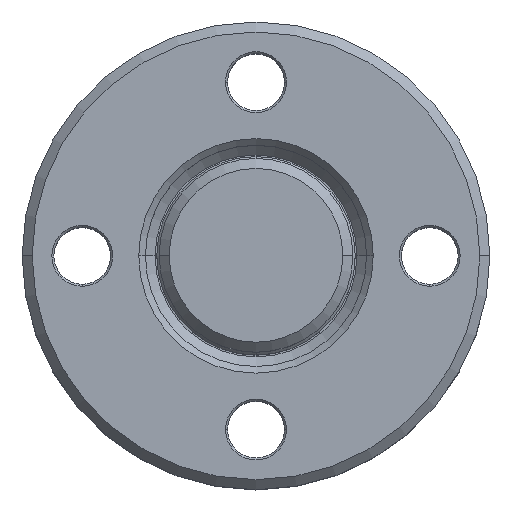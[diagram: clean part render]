
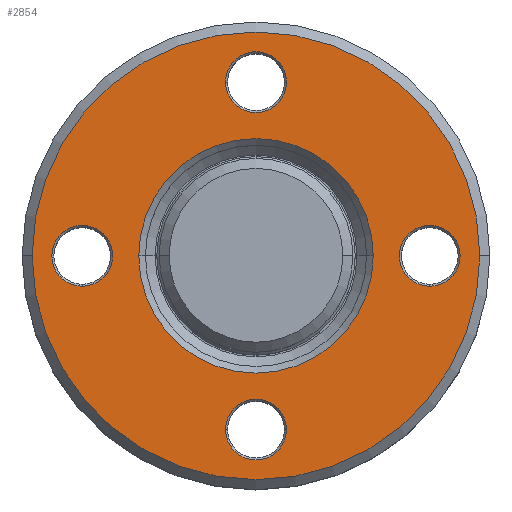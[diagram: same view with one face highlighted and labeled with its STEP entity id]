
A CAD part, top view. The second image highlights one B-rep face of the part: STEP entity #2854.
In plain terms, the highlighted planar face has unit normal (0, 0, 1).
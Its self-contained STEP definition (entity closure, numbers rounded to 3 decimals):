
#20 = EDGE_CURVE ( 'NONE', #3421, #2094, #2848, .T. ) ;
#54 = AXIS2_PLACEMENT_3D ( 'NONE', #1150, #1967, #2876 ) ;
#108 = CARTESIAN_POINT ( 'NONE',  ( 0., 0., 13. ) ) ;
#277 = VERTEX_POINT ( 'NONE', #2942 ) ;
#301 = EDGE_CURVE ( 'NONE', #3459, #3583, #2769, .T. ) ;
#324 = CARTESIAN_POINT ( 'NONE',  ( -26., -4.55, 13. ) ) ;
#345 = CARTESIAN_POINT ( 'NONE',  ( 17.55, 0., 13. ) ) ;
#427 = EDGE_CURVE ( 'NONE', #277, #1817, #2642, .T. ) ;
#486 = AXIS2_PLACEMENT_3D ( 'NONE', #108, #1540, #950 ) ;
#517 = CARTESIAN_POINT ( 'NONE',  ( 26., 4.55, 13. ) ) ;
#564 = CARTESIAN_POINT ( 'NONE',  ( -33.5, 0., 13. ) ) ;
#645 = CARTESIAN_POINT ( 'NONE',  ( 33.5, 0., 13. ) ) ;
#680 = CARTESIAN_POINT ( 'NONE',  ( 0., 26., 13. ) ) ;
#681 = EDGE_CURVE ( 'NONE', #3409, #3412, #2509, .T. ) ;
#712 = DIRECTION ( 'NONE',  ( 0., 0., -1. ) ) ;
#729 = CIRCLE ( 'NONE', #3345, 4.55 ) ;
#842 = DIRECTION ( 'NONE',  ( 0., 0., -1. ) ) ;
#848 = DIRECTION ( 'NONE',  ( 1., 0., 0. ) ) ;
#854 = DIRECTION ( 'NONE',  ( 0., 0., -1. ) ) ;
#861 = CARTESIAN_POINT ( 'NONE',  ( 0., -26., 13. ) ) ;
#888 = DIRECTION ( 'NONE',  ( 1., 0., 0. ) ) ;
#945 = FACE_BOUND ( 'NONE', #3573, .T. ) ;
#946 = EDGE_CURVE ( 'NONE', #1345, #2292, #2341, .T. ) ;
#948 = FACE_BOUND ( 'NONE', #3185, .T. ) ;
#950 = DIRECTION ( 'NONE',  ( -1., 0., 0. ) ) ;
#951 = FACE_BOUND ( 'NONE', #3552, .T. ) ;
#954 = FACE_BOUND ( 'NONE', #3155, .T. ) ;
#968 = FACE_BOUND ( 'NONE', #3441, .T. ) ;
#979 = FACE_OUTER_BOUND ( 'NONE', #3163, .T. ) ;
#1012 = CARTESIAN_POINT ( 'NONE',  ( -4.55, -26., 13. ) ) ;
#1049 = DIRECTION ( 'NONE',  ( 0., 0., -1. ) ) ;
#1113 = CARTESIAN_POINT ( 'NONE',  ( 4.55, 26., 13. ) ) ;
#1129 = EDGE_CURVE ( 'NONE', #2292, #1345, #2246, .T. ) ;
#1150 = CARTESIAN_POINT ( 'NONE',  ( 0., 0., 13. ) ) ;
#1247 = DIRECTION ( 'NONE',  ( -1., 0., 0. ) ) ;
#1264 = EDGE_CURVE ( 'NONE', #3412, #3409, #2155, .T. ) ;
#1278 = DIRECTION ( 'NONE',  ( 0., 0., -1. ) ) ;
#1345 = VERTEX_POINT ( 'NONE', #345 ) ;
#1351 = CIRCLE ( 'NONE', #486, 33.5 ) ;
#1357 = AXIS2_PLACEMENT_3D ( 'NONE', #2807, #3065, #3321 ) ;
#1377 = AXIS2_PLACEMENT_3D ( 'NONE', #1396, #1049, #2764 ) ;
#1378 = EDGE_CURVE ( 'NONE', #2094, #3421, #2093, .T. ) ;
#1396 = CARTESIAN_POINT ( 'NONE',  ( 0., -26., 13. ) ) ;
#1420 = CARTESIAN_POINT ( 'NONE',  ( -26., 4.55, 13. ) ) ;
#1440 = AXIS2_PLACEMENT_3D ( 'NONE', #1873, #2614, #3307 ) ;
#1455 = EDGE_CURVE ( 'NONE', #1817, #277, #2044, .T. ) ;
#1496 = AXIS2_PLACEMENT_3D ( 'NONE', #680, #712, #888 ) ;
#1516 = EDGE_CURVE ( 'NONE', #2151, #2091, #2058, .T. ) ;
#1540 = DIRECTION ( 'NONE',  ( 0., 0., -1. ) ) ;
#1634 = AXIS2_PLACEMENT_3D ( 'NONE', #2407, #2422, #2444 ) ;
#1676 = CARTESIAN_POINT ( 'NONE',  ( 0., 0., 13. ) ) ;
#1687 = AXIS2_PLACEMENT_3D ( 'NONE', #1676, #1689, #1938 ) ;
#1689 = DIRECTION ( 'NONE',  ( 0., 0., -1. ) ) ;
#1695 = CARTESIAN_POINT ( 'NONE',  ( -4.55, 26., 13. ) ) ;
#1789 = CARTESIAN_POINT ( 'NONE',  ( 26., 0., 13. ) ) ;
#1808 = PLANE ( 'NONE',  #54 ) ;
#1817 = VERTEX_POINT ( 'NONE', #1012 ) ;
#1837 = DIRECTION ( 'NONE',  ( 0., 0., -1. ) ) ;
#1849 = DIRECTION ( 'NONE',  ( 0., -1., 0. ) ) ;
#1873 = CARTESIAN_POINT ( 'NONE',  ( 26., 0., 13. ) ) ;
#1882 = AXIS2_PLACEMENT_3D ( 'NONE', #2460, #2573, #2665 ) ;
#1938 = DIRECTION ( 'NONE',  ( 1., 0., 0. ) ) ;
#1967 = DIRECTION ( 'NONE',  ( 0., 0., 1. ) ) ;
#2044 = CIRCLE ( 'NONE', #1377, 4.55 ) ;
#2058 = CIRCLE ( 'NONE', #1357, 4.55 ) ;
#2080 = AXIS2_PLACEMENT_3D ( 'NONE', #861, #854, #848 ) ;
#2091 = VERTEX_POINT ( 'NONE', #324 ) ;
#2093 = CIRCLE ( 'NONE', #1440, 4.55 ) ;
#2094 = VERTEX_POINT ( 'NONE', #517 ) ;
#2151 = VERTEX_POINT ( 'NONE', #1420 ) ;
#2155 = CIRCLE ( 'NONE', #1496, 4.55 ) ;
#2197 = AXIS2_PLACEMENT_3D ( 'NONE', #3078, #1278, #1247 ) ;
#2246 = CIRCLE ( 'NONE', #1634, 17.55 ) ;
#2292 = VERTEX_POINT ( 'NONE', #2584 ) ;
#2323 = AXIS2_PLACEMENT_3D ( 'NONE', #1789, #1837, #1849 ) ;
#2341 = CIRCLE ( 'NONE', #1687, 17.55 ) ;
#2407 = CARTESIAN_POINT ( 'NONE',  ( 0., 0., 13. ) ) ;
#2422 = DIRECTION ( 'NONE',  ( 0., 0., -1. ) ) ;
#2444 = DIRECTION ( 'NONE',  ( 1., 0., 0. ) ) ;
#2460 = CARTESIAN_POINT ( 'NONE',  ( 0., 26., 13. ) ) ;
#2509 = CIRCLE ( 'NONE', #1882, 4.55 ) ;
#2518 = EDGE_CURVE ( 'NONE', #3583, #3459, #1351, .T. ) ;
#2573 = DIRECTION ( 'NONE',  ( 0., 0., -1. ) ) ;
#2574 = CARTESIAN_POINT ( 'NONE',  ( -26., 0., 13. ) ) ;
#2584 = CARTESIAN_POINT ( 'NONE',  ( -17.55, 0., 13. ) ) ;
#2614 = DIRECTION ( 'NONE',  ( 0., 0., -1. ) ) ;
#2642 = CIRCLE ( 'NONE', #2080, 4.55 ) ;
#2665 = DIRECTION ( 'NONE',  ( 1., 0., 0. ) ) ;
#2764 = DIRECTION ( 'NONE',  ( 1., 0., 0. ) ) ;
#2769 = CIRCLE ( 'NONE', #2197, 33.5 ) ;
#2807 = CARTESIAN_POINT ( 'NONE',  ( -26., 0., 13. ) ) ;
#2848 = CIRCLE ( 'NONE', #2323, 4.55 ) ;
#2854 = ADVANCED_FACE ( 'NONE', ( #979, #968, #954, #951, #948, #945 ), #1808, .T. ) ;
#2862 = DIRECTION ( 'NONE',  ( 0., -1., 0. ) ) ;
#2876 = DIRECTION ( 'NONE',  ( 1., 0., 0. ) ) ;
#2942 = CARTESIAN_POINT ( 'NONE',  ( 4.55, -26., 13. ) ) ;
#3065 = DIRECTION ( 'NONE',  ( 0., 0., -1. ) ) ;
#3068 = EDGE_CURVE ( 'NONE', #2091, #2151, #729, .T. ) ;
#3078 = CARTESIAN_POINT ( 'NONE',  ( 0., 0., 13. ) ) ;
#3155 = EDGE_LOOP ( 'NONE', ( #3216, #3194 ) ) ;
#3159 = ORIENTED_EDGE ( 'NONE', *, *, #1129, .T. ) ;
#3163 = EDGE_LOOP ( 'NONE', ( #3617, #3222 ) ) ;
#3168 = ORIENTED_EDGE ( 'NONE', *, *, #946, .T. ) ;
#3178 = ORIENTED_EDGE ( 'NONE', *, *, #1264, .T. ) ;
#3181 = ORIENTED_EDGE ( 'NONE', *, *, #681, .T. ) ;
#3185 = EDGE_LOOP ( 'NONE', ( #3181, #3178 ) ) ;
#3188 = ORIENTED_EDGE ( 'NONE', *, *, #1378, .T. ) ;
#3193 = ORIENTED_EDGE ( 'NONE', *, *, #20, .T. ) ;
#3194 = ORIENTED_EDGE ( 'NONE', *, *, #1455, .T. ) ;
#3200 = ORIENTED_EDGE ( 'NONE', *, *, #3068, .T. ) ;
#3216 = ORIENTED_EDGE ( 'NONE', *, *, #427, .T. ) ;
#3219 = ORIENTED_EDGE ( 'NONE', *, *, #1516, .T. ) ;
#3222 = ORIENTED_EDGE ( 'NONE', *, *, #2518, .F. ) ;
#3307 = DIRECTION ( 'NONE',  ( 0., -1., 0. ) ) ;
#3321 = DIRECTION ( 'NONE',  ( 0., -1., 0. ) ) ;
#3345 = AXIS2_PLACEMENT_3D ( 'NONE', #2574, #842, #2862 ) ;
#3380 = CARTESIAN_POINT ( 'NONE',  ( 26., -4.55, 13. ) ) ;
#3409 = VERTEX_POINT ( 'NONE', #1113 ) ;
#3412 = VERTEX_POINT ( 'NONE', #1695 ) ;
#3421 = VERTEX_POINT ( 'NONE', #3380 ) ;
#3441 = EDGE_LOOP ( 'NONE', ( #3200, #3219 ) ) ;
#3459 = VERTEX_POINT ( 'NONE', #564 ) ;
#3552 = EDGE_LOOP ( 'NONE', ( #3193, #3188 ) ) ;
#3573 = EDGE_LOOP ( 'NONE', ( #3168, #3159 ) ) ;
#3583 = VERTEX_POINT ( 'NONE', #645 ) ;
#3617 = ORIENTED_EDGE ( 'NONE', *, *, #301, .F. ) ;
